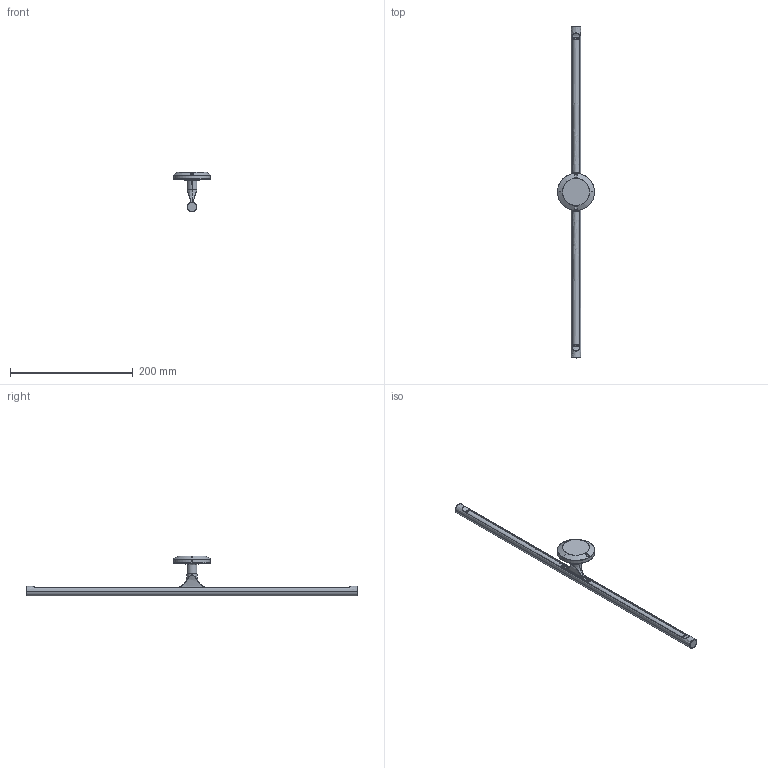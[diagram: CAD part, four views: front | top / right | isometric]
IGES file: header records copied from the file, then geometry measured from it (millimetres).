
Start section: SolidWorks IGES file using analytic representation for surfaces
Global section: file name: C:\Users\scott\Dropbox\Rakumba Industrial Design\PRODUCT\2 DEVELOPMENT\GALLERY\CAD\Gallery Lightweight CAD\Gallery - 540 Wall Lamp.IGS; native system: SolidWorks 2017; preprocessor: SolidWorks 2017; author: scott; date: 240403.174649; units: millimetre
Bounding box: 60 x 540 x 65 mm (x, y, z)
Surface area: 56932.2 mm2 (no closed solid volume)
Topology: 0 solids, 0 shells, 214 faces, 3259 edges, 3253 vertices
Faces by surface type: bspline 137, revolution 77
